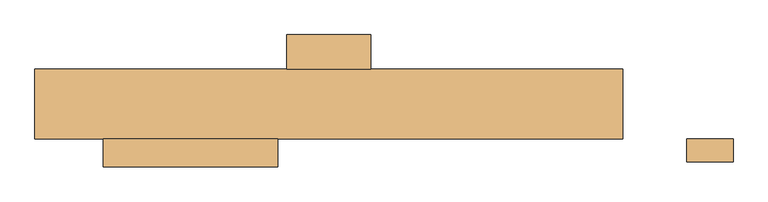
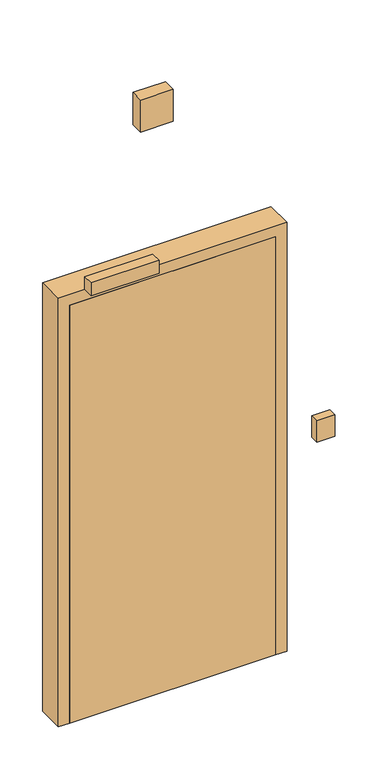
"""IFC4 building model written with IfcOpenShell, lengths in millimetres: door geometry, LOC_Enkeldörr : LOC_Enkeldörr."""

from ifc_helpers import new_model, si_unit, frame, origin, origin_with_axes, place, context, project, spatial, polyline, outline, extrude, source, transform, mapped, element, save


def door_1f03e138(model_context):
    return source(origin(), model_context, "Body", "SweptSolid", [
        extrude(outline(polyline([(455.0, -60.0), (-455.0, -60.0), (-455.0, -20.0), (455.0, -20.0), (455.0, -60.0)])), origin_with_axes(), (0.0, 0.0, 1.0), 1950.0),
        extrude(outline(polyline([(-87.845119, -60.0), (-87.845119, -108.0814753), (-387.845119, -108.0814753), (-387.845119, -60.0), (-87.845119, -60.0)])), frame((0.0, 0.0, 2000.0), z_axis=(0.0, 0.0, 1.0), x_axis=(1.0, 0.0, 0.0)), (0.0, 0.0, 1.0), 60.0),
        extrude(outline(polyline([(71.850514, 119.024496), (71.850514, 60.0), (-71.850514, 60.0), (-71.850514, 119.024496), (71.850514, 119.024496)])), frame((0.0, 0.0, 2550.0), z_axis=(0.0, 0.0, 1.0), x_axis=(1.0, 0.0, 0.0)), (0.0, 0.0, 1.0), 150.0),
        extrude(outline(polyline([(695.0, -60.0), (695.0, -99.7931161), (615.0, -99.7931161), (615.0, -60.0), (695.0, -60.0)])), frame((0.0, 0.0, 960.0040929), z_axis=(0.0, 0.0, 1.0), x_axis=(1.0, 0.0, 0.0)), (0.0, 0.0, 1.0), 100.0),
        extrude(outline(polyline([(2000.0, 505.0), (2000.0, -505.0), (0.0, -505.0), (0.0, -455.0), (1950.0, -455.0), (1950.0, 455.0), (0.0, 455.0), (0.0, 505.0), (2000.0, 505.0)])), frame((0.0, -60.0, 0.0), z_axis=(0.0, 1.0, 0.0), x_axis=(0.0, 0.0, 1.0)), (0.0, 0.0, 1.0), 120.0),
    ])


if __name__ == "__main__":
    model = new_model("IFC4")
    model_context = context("Model", 3, world=origin())
    ifc_project = project(units=[si_unit("LENGTHUNIT", "METRE", prefix="MILLI")], contexts=[model_context])
    site = spatial("IfcSite", under=ifc_project)
    building = spatial("IfcBuilding", under=site)
    placement = place(None, origin())
    door_shape = door_1f03e138(model_context)
    element("IfcDoor", 1, ObjectType="LOC_Enkeldörr : LOC_Enkeldörr", at=placement, inside=building, context=model_context, shape_type="MappedRepresentation", body=[
        mapped(door_shape, transform((0.0, 0.0, 0.0), x_axis=(1.0, 0.0, 0.0), y_axis=(0.0, 1.0, 0.0), z_axis=(0.0, 0.0, 1.0))),
    ])
    save(model, "model.ifc")
